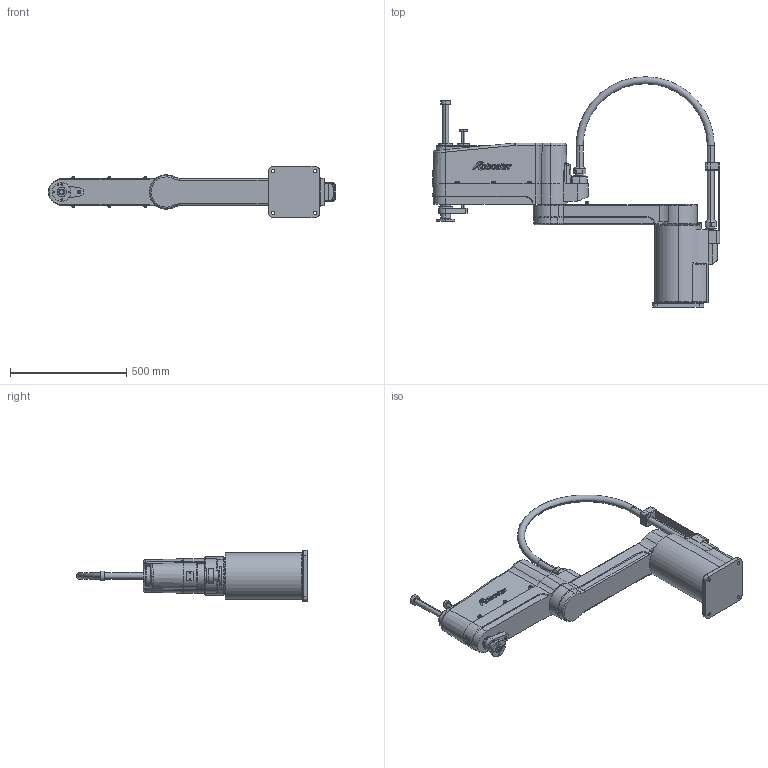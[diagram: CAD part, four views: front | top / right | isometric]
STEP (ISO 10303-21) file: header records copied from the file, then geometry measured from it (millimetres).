
FILE_DESCRIPTION (( 'STEP AP203' ), '1' );
FILE_NAME ('RPA100-4B(寇何).STEP', '2021-05-18T01:04:18', ( '唱侩褥' ), ( '' ), 'SwSTEP 2.0', 'SolidWorks 2017', '' );
FILE_SCHEMA (( 'CONFIG_CONTROL_DESIGN' ));
Length unit declared in the file: millimetre
Products named in the file (6): B_Arm_RPA100-4B(諼睡)_晦獄 撲薑; RPA100-4B(諼睡); BNS2525_200ST_Shaft_RBSA100-4B(諼睡)_晦獄 撲薑; A_Arm_RBSA100-4B(諼睡)_晦獄 撲薑; Base_RPA100-4B(諼睡)_晦獄 撲薑; Cable_RPA100-4B(諼睡)_晦獄 撲薑
Assembly tree (5 placements, depth 2):
  RPA100-4B(諼睡)
    Base_RPA100-4B(諼睡)_晦獄 撲薑
    A_Arm_RBSA100-4B(諼睡)_晦獄 撲薑
    B_Arm_RPA100-4B(諼睡)_晦獄 撲薑
    Cable_RPA100-4B(諼睡)_晦獄 撲薑
    BNS2525_200ST_Shaft_RBSA100-4B(諼睡)_晦獄 撲薑
Bounding box: 1235.2 x 991.25 x 220 mm (x, y, z)
Volume: 38638363.4 mm3; surface area: 1641104.5 mm2
Topology: 11 solids, 12 shells, 1635 faces, 4440 edges, 2890 vertices
Faces by surface type: plane 1225, cylinder 264, torus 80, bspline 36, cone 30
Entity records: 53491 total; most frequent: CARTESIAN_POINT 11483, ORIENTED_EDGE 8864, DIRECTION 8183, EDGE_CURVE 4432, VECTOR 3617, LINE 3617, VERTEX_POINT 2890, AXIS2_PLACEMENT_3D 2283
